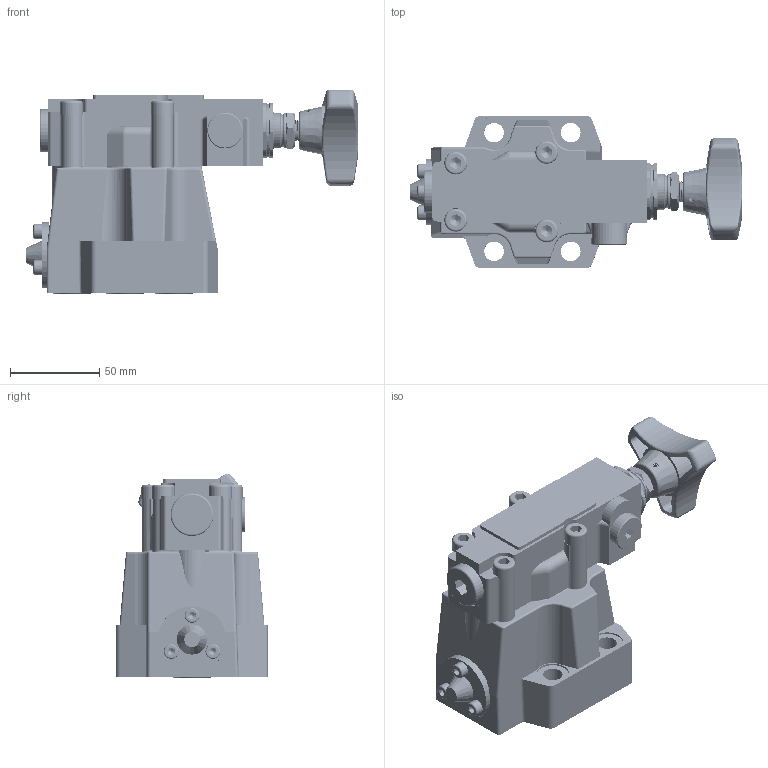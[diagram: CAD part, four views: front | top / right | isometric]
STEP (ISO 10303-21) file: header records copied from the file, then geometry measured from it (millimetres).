
FILE_DESCRIPTION(/* description */ (''),/* implementation_level */ '2;1');
FILE_NAME(/* name */ 'DA10-3XJ卸荷溢流阀.prt.stp',/* time_stamp */ '2024-08-01T13:06:46+08:00',/* author */ (''),/* organization */ (''),/* preprocessor_version */ 'ST-DEVELOPER v16.7',/* originating_system */ 'SIEMENS PLM Software NX 12.0',/* authorisation */ '');
FILE_SCHEMA (('AUTOMOTIVE_DESIGN { 1 0 10303 214 3 1 1 1 }'));
Products named in the file (1): DA10-3XJ卸荷溢流阀
Bounding box: 186.1 x 85 x 114.42 mm (x, y, z)
Volume: 644553.4 mm3; surface area: 118025.6 mm2
Topology: 26 solids, 34 shells, 1138 faces, 2804 edges, 1737 vertices
Faces by surface type: plane 492, cylinder 350, bspline 119, torus 87, cone 86, sphere 4
Full cylindrical faces by diameter (mm): 0.8 x1, 2 x1, 3 x3, 3.1 x2, 4.25 x16, 4.3 x4, 5 x1, 5.5 x3, 6 x4, 6.8 x36, 7 x1, 8.28 x3, 8.4 x4, 10 x3, 10.2 x1, 11 x5, 12.2 x2, 12.73 x4, 14 x1, 14.3 x1, 15.39 x1, 17.5 x2, 18 x5, 19 x1, 19.7 x2, 20 x2, 21.8 x6, 24 x1, 25 x1, 30 x1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
Entity records: 122183 total; most frequent: CARTESIAN_POINT 96563, ORIENTED_EDGE 4816, DIRECTION 4438, EDGE_CURVE 2408, AXIS2_PLACEMENT_3D 1777, VERTEX_POINT 1575, EDGE_LOOP 1284, ADVANCED_FACE 1083
